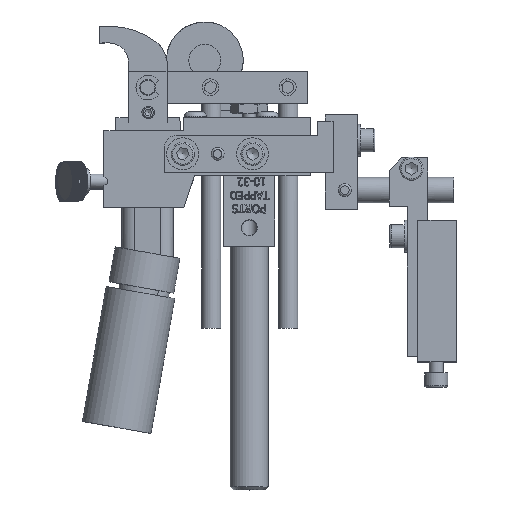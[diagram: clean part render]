
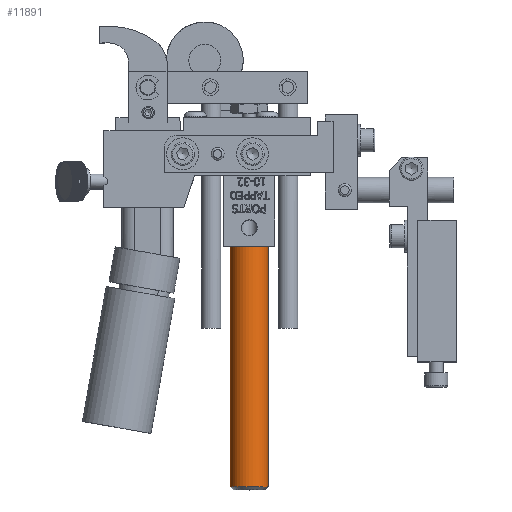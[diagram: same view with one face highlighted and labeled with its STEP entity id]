
A CAD part, top view. The second image highlights one B-rep face of the part: STEP entity #11891.
In plain terms, the highlighted cylindrical face has radius 4.763 mm (diameter 9.525 mm), a full revolution.
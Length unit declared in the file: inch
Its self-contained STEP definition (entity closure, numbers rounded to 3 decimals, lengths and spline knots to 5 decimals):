
#11860=CARTESIAN_POINT('',(0.44163,-3.93233,-0.0475));
#11861=VERTEX_POINT('',#11860);
#11862=CARTESIAN_POINT('',(0.44163,-3.93233,-0.235));
#11863=DIRECTION('',(0.0,-1.0,0.0));
#11864=DIRECTION('',(0.0,0.0,-1.0));
#11865=AXIS2_PLACEMENT_3D('',#11862,#11863,#11864);
#11866=CIRCLE('',#11865,0.1875);
#11867=EDGE_CURVE('',#11861,#11861,#11866,.T.);
#11872=CARTESIAN_POINT('',(0.44163,-1.58733,-0.235));
#11873=DIRECTION('',(0.,-1.0,0.));
#11874=DIRECTION('',(0.0,0.0,-1.0));
#11875=AXIS2_PLACEMENT_3D('',#11872,#11873,#11874);
#11876=CYLINDRICAL_SURFACE('',#11875,0.1875);
#11877=CARTESIAN_POINT('',(0.44163,-1.58733,-0.0475));
#11878=VERTEX_POINT('',#11877);
#11879=CARTESIAN_POINT('',(0.44163,-1.58733,-0.235));
#11880=DIRECTION('',(0.0,1.0,0.0));
#11881=DIRECTION('',(0.0,0.0,-1.0));
#11882=AXIS2_PLACEMENT_3D('',#11879,#11880,#11881);
#11883=CIRCLE('',#11882,0.1875);
#11884=EDGE_CURVE('',#11878,#11878,#11883,.T.);
#11885=ORIENTED_EDGE('',*,*,#11884,.F.);
#11886=EDGE_LOOP('',(#11885));
#11887=FACE_OUTER_BOUND('',#11886,.T.);
#11888=ORIENTED_EDGE('',*,*,#11867,.F.);
#11889=EDGE_LOOP('',(#11888));
#11890=FACE_BOUND('',#11889,.T.);
#11891=ADVANCED_FACE('',(#11887,#11890),#11876,.T.);
